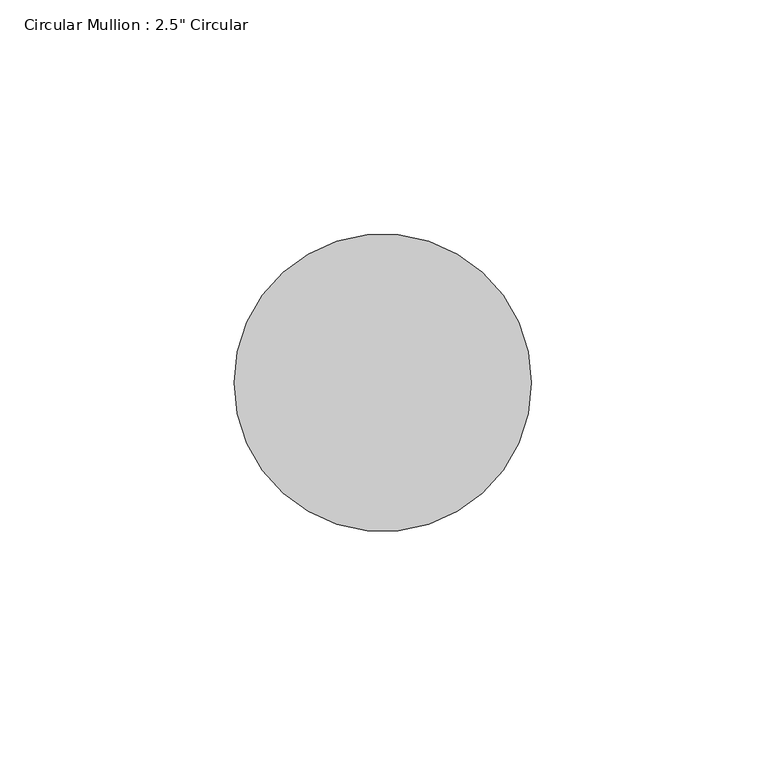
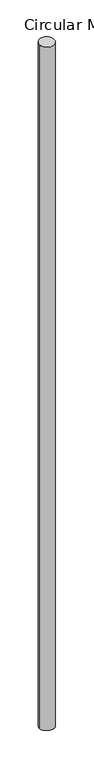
"""IFC4 building model written with IfcOpenShell, lengths in millimetres: member geometry."""

from ifc_helpers import new_model, si_unit, frame, origin, origin_with_axes, place, context, project, spatial, ellipse_curve, source, transform, mapped, element, save
from ifc_brep_helpers import plane_surface, cylinder_surface, advanced_brep


def member_8e96c683(model_context):
    return source(origin(), model_context, "Body", "AdvancedBrep", [
        advanced_brep(
        [(-31.75, 0.0, -0.0338416), (31.75, 0.0, 0.0338416), (31.75, 0.0, -3046.2251287), (-31.75, 0.0, -3046.3253377)],
        [
            (0, 1, ellipse_curve(frame((0.0, 0.0, 0.0), z_axis=(0.0010644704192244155, 0.05134158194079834, -0.9986805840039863), x_axis=(0.020701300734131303, 0.9984660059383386, 0.05135261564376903)), 31.7919468, 31.75)),
            (1, 2),
            (2, 3, ellipse_curve(frame((0.0, 0.0, -3046.2752332), z_axis=(-0.0015753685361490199, 0.058738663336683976, 0.9982721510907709), x_axis=(0.026763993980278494, -0.9979133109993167, 0.05875978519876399)), 31.8049542, 31.75)),
            (3, 0),
            (1, 0, ellipse_curve(frame((0.0, 0.0, 0.0), z_axis=(0.0010644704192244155, 0.05134158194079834, -0.9986805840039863), x_axis=(0.020701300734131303, 0.9984660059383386, 0.05135261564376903)), 31.7919468, 31.75)),
            (3, 2, ellipse_curve(frame((0.0, 0.0, -3046.2752332), z_axis=(-0.0015753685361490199, 0.058738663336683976, 0.9982721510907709), x_axis=(0.026763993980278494, -0.9979133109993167, 0.05875978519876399)), 31.8049542, 31.75)),
        ],
        [
            cylinder_surface(origin_with_axes(), 31.75),
            plane_surface(frame((304.7345102, -6.3180927, 0.0), z_axis=(-0.0010644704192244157, -0.05134158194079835, 0.9986805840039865), x_axis=(-0.020701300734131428, -0.9984660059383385, -0.051352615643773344))),
            plane_surface(frame((304.6904362, 8.171785, -3046.2752332), z_axis=(0.0015753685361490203, -0.05873866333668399, -0.9982721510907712), x_axis=(0.02676399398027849, -0.9979133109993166, 0.05875978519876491))),
        ],
        [
            (0, [[1, 2, 3, 4]]),
            (0, [[5, -4, 6, -2]]),
            (1, [[-1, -5]]),
            (2, [[-6, -3]]),
        ],
    ),
    ])


if __name__ == "__main__":
    model = new_model("IFC4")
    model_context = context("Model", 3, world=origin())
    ifc_project = project(units=[si_unit("LENGTHUNIT", "METRE", prefix="MILLI")], contexts=[model_context])
    site = spatial("IfcSite", under=ifc_project)
    building = spatial("IfcBuilding", under=site)
    placement = place(None, origin())
    member_shape = member_8e96c683(model_context)
    element("IfcMember", 1, ObjectType="Circular Mullion : 2.5\" Circular", at=placement, inside=building, context=model_context, shape_type="MappedRepresentation", body=[
        mapped(member_shape, transform((0.0, 0.0, 0.0), x_axis=(1.0, 0.0, 0.0), y_axis=(0.0, 1.0, 0.0), z_axis=(0.0, 0.0, 1.0))),
    ])
    save(model, "model.ifc")
